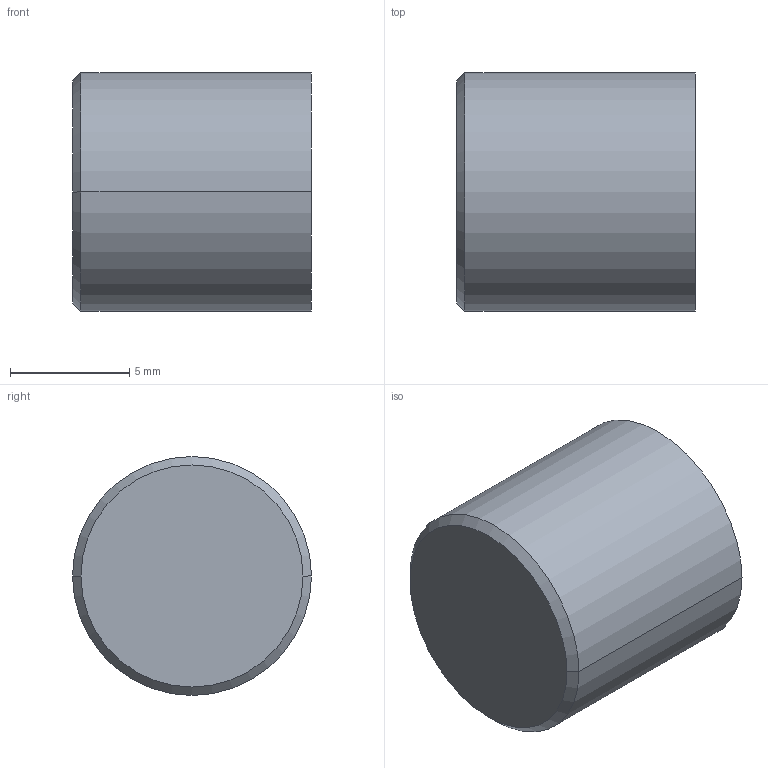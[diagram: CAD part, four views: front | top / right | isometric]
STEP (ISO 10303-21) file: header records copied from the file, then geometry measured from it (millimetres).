
FILE_DESCRIPTION( ( '' ), '1' );
FILE_NAME( 'C:/Users/trg/Desktop/Plastic Injection molding/SME 01-1010(1).stp', '2014-12-15T09:05:01', ( '' ), ( '' ), ' ', ' ', ' ' );
FILE_SCHEMA( ( 'CONFIG_CONTROL_DESIGN' ) );
Length unit declared in the file: millimetre
Products named in the file (1): 1
Bounding box: 10 x 10 x 10 mm (x, y, z)
Volume: 783.5 mm3; surface area: 464.6 mm2
Topology: 1 solids, 1 shells, 6 faces, 10 edges, 6 vertices
Faces by surface type: cone 2, cylinder 2, plane 2
Entity records: 189 total; most frequent: DIRECTION 30, CARTESIAN_POINT 23, ORIENTED_EDGE 20, AXIS2_PLACEMENT_3D 13, EDGE_CURVE 10, ADVANCED_FACE 6, FACE_OUTER_BOUND 6, EDGE_LOOP 6
